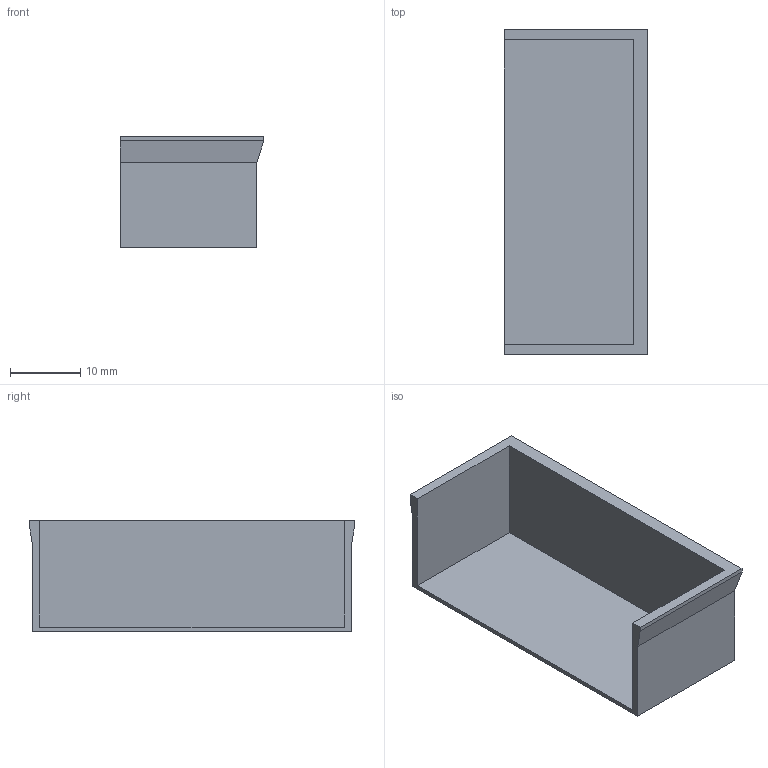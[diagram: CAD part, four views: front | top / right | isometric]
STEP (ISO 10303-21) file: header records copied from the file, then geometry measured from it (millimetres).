
FILE_DESCRIPTION(('STEP AP203'), '1');
FILE_NAME('Box', '', ('UNSPECIFIED'), ('UNSPECIFIED'), 'ASCON STEP Converter 1.6', 'ASCON Math Kernel', '');
FILE_SCHEMA(('CONFIG_CONTROL_DESIGN'));
Length unit declared in the file: millimetre
Bounding box: 20.45 x 46.25 x 15.7 mm (x, y, z)
Volume: 1850.5 mm3; surface area: 4438.9 mm2
Topology: 1 solids, 1 shells, 21 faces, 51 edges, 32 vertices
Faces by surface type: plane 21
Entity records: 805 total; most frequent: CARTESIAN_POINT 105, ORIENTED_EDGE 102, DIRECTION 95, EDGE_CURVE 51, LINE 51, VECTOR 51, VERTEX_POINT 32, AXIS2_PLACEMENT_3D 22
